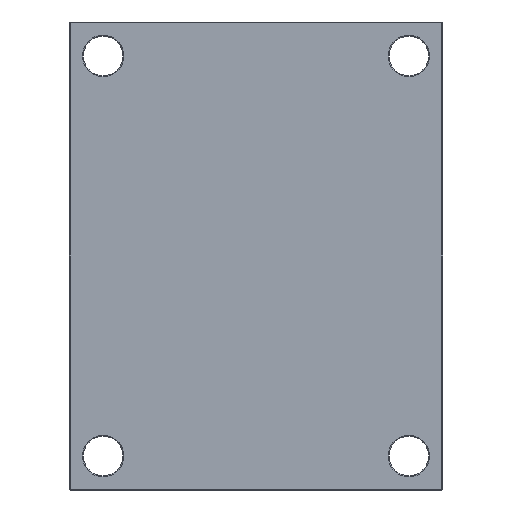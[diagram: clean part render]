
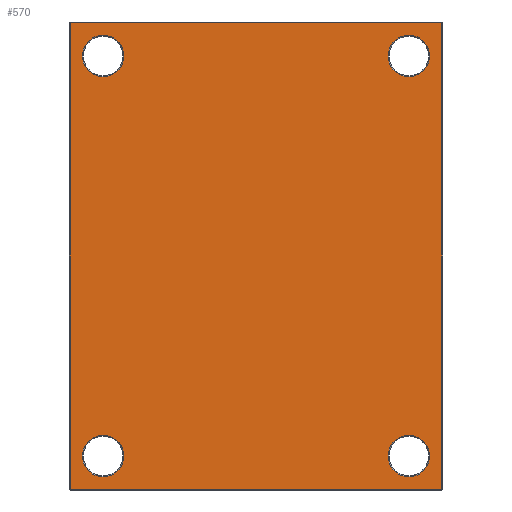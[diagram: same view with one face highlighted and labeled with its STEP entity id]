
A CAD part, front view. The second image highlights one B-rep face of the part: STEP entity #570.
In plain terms, the highlighted planar face has unit normal (0, -1, 0).
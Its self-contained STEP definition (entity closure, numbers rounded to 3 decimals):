
#76 = VERTEX_POINT ( 'NONE', #1218 ) ;
#146 = FACE_BOUND ( 'NONE', #443, .T. ) ;
#165 = VERTEX_POINT ( 'NONE', #1086 ) ;
#186 = CARTESIAN_POINT ( 'NONE',  ( -197., 0., -247. ) ) ;
#204 = CARTESIAN_POINT ( 'NONE',  ( 162., 0., 190. ) ) ;
#212 = VERTEX_POINT ( 'NONE', #1442 ) ;
#219 = CARTESIAN_POINT ( 'NONE',  ( 197., 0., 0. ) ) ;
#227 = PLANE ( 'NONE',  #594 ) ;
#230 = DIRECTION ( 'NONE',  ( 0., 1., 0. ) ) ;
#252 = CARTESIAN_POINT ( 'NONE',  ( 0., 0., 0. ) ) ;
#253 = ORIENTED_EDGE ( 'NONE', *, *, #1427, .T. ) ;
#259 = VERTEX_POINT ( 'NONE', #1710 ) ;
#260 = EDGE_LOOP ( 'NONE', ( #302, #300, #272, #253 ) ) ;
#272 = ORIENTED_EDGE ( 'NONE', *, *, #1430, .T. ) ;
#282 = EDGE_LOOP ( 'NONE', ( #339, #332 ) ) ;
#295 = DIRECTION ( 'NONE',  ( 0., 0., 1. ) ) ;
#300 = ORIENTED_EDGE ( 'NONE', *, *, #1433, .T. ) ;
#302 = ORIENTED_EDGE ( 'NONE', *, *, #1447, .T. ) ;
#325 = DIRECTION ( 'NONE',  ( 0., 0., 1. ) ) ;
#327 = AXIS2_PLACEMENT_3D ( 'NONE', #1576, #907, #736 ) ;
#332 = ORIENTED_EDGE ( 'NONE', *, *, #1451, .T. ) ;
#339 = ORIENTED_EDGE ( 'NONE', *, *, #1906, .T. ) ;
#344 = ORIENTED_EDGE ( 'NONE', *, *, #1457, .T. ) ;
#356 = DIRECTION ( 'NONE',  ( 0., 0., 1. ) ) ;
#362 = ORIENTED_EDGE ( 'NONE', *, *, #1889, .T. ) ;
#374 = ORIENTED_EDGE ( 'NONE', *, *, #1192, .T. ) ;
#390 = ORIENTED_EDGE ( 'NONE', *, *, #1865, .T. ) ;
#395 = CIRCLE ( 'NONE', #767, 22. ) ;
#415 = VERTEX_POINT ( 'NONE', #1912 ) ;
#422 = ORIENTED_EDGE ( 'NONE', *, *, #1473, .T. ) ;
#440 = VERTEX_POINT ( 'NONE', #1916 ) ;
#443 = EDGE_LOOP ( 'NONE', ( #455, #422 ) ) ;
#455 = ORIENTED_EDGE ( 'NONE', *, *, #1831, .T. ) ;
#476 = DIRECTION ( 'NONE',  ( -1., 0., 0. ) ) ;
#561 = CIRCLE ( 'NONE', #1770, 22. ) ;
#570 = ADVANCED_FACE ( 'NONE', ( #146, #676, #2151, #1211, #1088 ), #227, .F. ) ;
#594 = AXIS2_PLACEMENT_3D ( 'NONE', #252, #230, #325 ) ;
#609 = CARTESIAN_POINT ( 'NONE',  ( -162., 0., 212. ) ) ;
#620 = DIRECTION ( 'NONE',  ( 0., 1., 0. ) ) ;
#637 = DIRECTION ( 'NONE',  ( 0., 0., 1. ) ) ;
#641 = CIRCLE ( 'NONE', #2167, 22. ) ;
#673 = CARTESIAN_POINT ( 'NONE',  ( 0., 0., 247. ) ) ;
#676 = FACE_BOUND ( 'NONE', #796, .T. ) ;
#690 = DIRECTION ( 'NONE',  ( 0., 0., 1. ) ) ;
#734 = CIRCLE ( 'NONE', #2175, 22. ) ;
#736 = DIRECTION ( 'NONE',  ( 0., 0., 1. ) ) ;
#737 = CARTESIAN_POINT ( 'NONE',  ( 162., 0., 212. ) ) ;
#767 = AXIS2_PLACEMENT_3D ( 'NONE', #1988, #1973, #1960 ) ;
#790 = CARTESIAN_POINT ( 'NONE',  ( 162., 0., 212. ) ) ;
#796 = EDGE_LOOP ( 'NONE', ( #390, #374 ) ) ;
#812 = DIRECTION ( 'NONE',  ( 0., 1., 0. ) ) ;
#835 = VERTEX_POINT ( 'NONE', #1568 ) ;
#876 = VERTEX_POINT ( 'NONE', #1556 ) ;
#907 = DIRECTION ( 'NONE',  ( 0., 1., 0. ) ) ;
#918 = EDGE_LOOP ( 'NONE', ( #362, #344 ) ) ;
#951 = CIRCLE ( 'NONE', #1932, 22. ) ;
#955 = VERTEX_POINT ( 'NONE', #186 ) ;
#966 = CIRCLE ( 'NONE', #1900, 22. ) ;
#969 = VECTOR ( 'NONE', #1180, 1000. ) ;
#974 = CIRCLE ( 'NONE', #1888, 22. ) ;
#989 = CARTESIAN_POINT ( 'NONE',  ( -197., 0., 0. ) ) ;
#1011 = VECTOR ( 'NONE', #476, 1000. ) ;
#1013 = LINE ( 'NONE', #219, #969 ) ;
#1021 = VECTOR ( 'NONE', #1898, 1000. ) ;
#1041 = LINE ( 'NONE', #2067, #1095 ) ;
#1043 = LINE ( 'NONE', #989, #1021 ) ;
#1059 = VERTEX_POINT ( 'NONE', #2015 ) ;
#1063 = LINE ( 'NONE', #673, #1011 ) ;
#1086 = CARTESIAN_POINT ( 'NONE',  ( 162., 0., -190. ) ) ;
#1088 = FACE_OUTER_BOUND ( 'NONE', #260, .T. ) ;
#1095 = VECTOR ( 'NONE', #2127, 1000. ) ;
#1180 = DIRECTION ( 'NONE',  ( 0., 0., 1. ) ) ;
#1192 = EDGE_CURVE ( 'NONE', #165, #1876, #1531, .T. ) ;
#1199 = VERTEX_POINT ( 'NONE', #204 ) ;
#1211 = FACE_BOUND ( 'NONE', #282, .T. ) ;
#1218 = CARTESIAN_POINT ( 'NONE',  ( 197., 0., -247. ) ) ;
#1281 = CARTESIAN_POINT ( 'NONE',  ( -162., 0., -212. ) ) ;
#1289 = DIRECTION ( 'NONE',  ( 0., 1., 0. ) ) ;
#1308 = DIRECTION ( 'NONE',  ( 0., 0., 1. ) ) ;
#1427 = EDGE_CURVE ( 'NONE', #955, #76, #1041, .T. ) ;
#1430 = EDGE_CURVE ( 'NONE', #876, #955, #1043, .T. ) ;
#1433 = EDGE_CURVE ( 'NONE', #212, #876, #1063, .T. ) ;
#1442 = CARTESIAN_POINT ( 'NONE',  ( 197., 0., 247. ) ) ;
#1447 = EDGE_CURVE ( 'NONE', #76, #212, #1013, .T. ) ;
#1451 = EDGE_CURVE ( 'NONE', #1059, #835, #974, .T. ) ;
#1457 = EDGE_CURVE ( 'NONE', #415, #1199, #966, .T. ) ;
#1473 = EDGE_CURVE ( 'NONE', #440, #259, #951, .T. ) ;
#1531 = CIRCLE ( 'NONE', #327, 22. ) ;
#1556 = CARTESIAN_POINT ( 'NONE',  ( -197., 0., 247. ) ) ;
#1568 = CARTESIAN_POINT ( 'NONE',  ( -162., 0., 190. ) ) ;
#1576 = CARTESIAN_POINT ( 'NONE',  ( 162., 0., -212. ) ) ;
#1710 = CARTESIAN_POINT ( 'NONE',  ( -162., 0., -234. ) ) ;
#1770 = AXIS2_PLACEMENT_3D ( 'NONE', #737, #1867, #690 ) ;
#1831 = EDGE_CURVE ( 'NONE', #259, #440, #641, .T. ) ;
#1865 = EDGE_CURVE ( 'NONE', #1876, #165, #734, .T. ) ;
#1867 = DIRECTION ( 'NONE',  ( 0., 1., 0. ) ) ;
#1876 = VERTEX_POINT ( 'NONE', #2140 ) ;
#1888 = AXIS2_PLACEMENT_3D ( 'NONE', #609, #620, #637 ) ;
#1889 = EDGE_CURVE ( 'NONE', #1199, #415, #561, .T. ) ;
#1898 = DIRECTION ( 'NONE',  ( 0., 0., -1. ) ) ;
#1900 = AXIS2_PLACEMENT_3D ( 'NONE', #790, #812, #295 ) ;
#1906 = EDGE_CURVE ( 'NONE', #835, #1059, #395, .T. ) ;
#1912 = CARTESIAN_POINT ( 'NONE',  ( 162., 0., 234. ) ) ;
#1916 = CARTESIAN_POINT ( 'NONE',  ( -162., 0., -190. ) ) ;
#1932 = AXIS2_PLACEMENT_3D ( 'NONE', #1281, #1289, #1308 ) ;
#1938 = CARTESIAN_POINT ( 'NONE',  ( -162., 0., -212. ) ) ;
#1944 = DIRECTION ( 'NONE',  ( 0., 1., 0. ) ) ;
#1960 = DIRECTION ( 'NONE',  ( 0., 0., 1. ) ) ;
#1971 = DIRECTION ( 'NONE',  ( 0., 0., 1. ) ) ;
#1973 = DIRECTION ( 'NONE',  ( 0., 1., 0. ) ) ;
#1988 = CARTESIAN_POINT ( 'NONE',  ( -162., 0., 212. ) ) ;
#2015 = CARTESIAN_POINT ( 'NONE',  ( -162., 0., 234. ) ) ;
#2067 = CARTESIAN_POINT ( 'NONE',  ( 0., 0., -247. ) ) ;
#2127 = DIRECTION ( 'NONE',  ( 1., 0., 0. ) ) ;
#2140 = CARTESIAN_POINT ( 'NONE',  ( 162., 0., -234. ) ) ;
#2145 = CARTESIAN_POINT ( 'NONE',  ( 162., 0., -212. ) ) ;
#2151 = FACE_BOUND ( 'NONE', #918, .T. ) ;
#2166 = DIRECTION ( 'NONE',  ( 0., 1., 0. ) ) ;
#2167 = AXIS2_PLACEMENT_3D ( 'NONE', #1938, #1944, #1971 ) ;
#2175 = AXIS2_PLACEMENT_3D ( 'NONE', #2145, #2166, #356 ) ;
